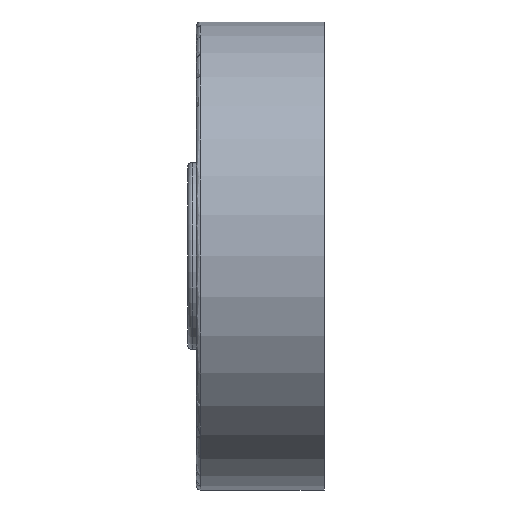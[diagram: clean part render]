
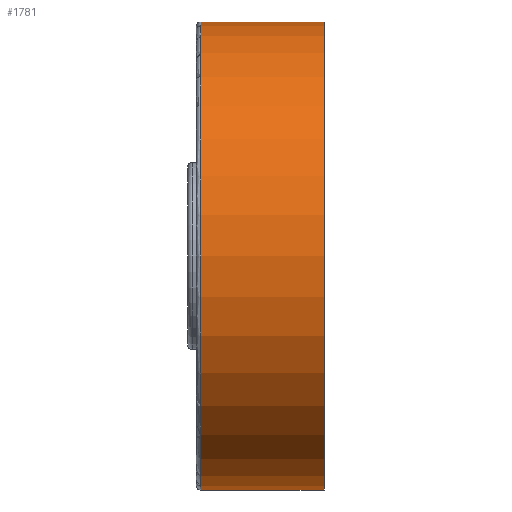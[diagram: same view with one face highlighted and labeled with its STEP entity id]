
A CAD part, left-side view. The second image highlights one B-rep face of the part: STEP entity #1781.
In plain terms, the highlighted cylindrical face has radius 27.5 mm (diameter 55 mm), a partial arc.
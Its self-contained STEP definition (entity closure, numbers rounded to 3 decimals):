
#85 = EDGE_CURVE ( 'NONE', #2161, #1597, #2662, .T. ) ;
#90 = ORIENTED_EDGE ( 'NONE', *, *, #85, .F. ) ;
#102 = ORIENTED_EDGE ( 'NONE', *, *, #1764, .F. ) ;
#114 = AXIS2_PLACEMENT_3D ( 'NONE', #256, #1299, #1105 ) ;
#136 = VECTOR ( 'NONE', #2576, 1000. ) ;
#146 = DIRECTION ( 'NONE',  ( 0., 0., 1. ) ) ;
#209 = CARTESIAN_POINT ( 'NONE',  ( 0., 0., 0. ) ) ;
#233 = CARTESIAN_POINT ( 'NONE',  ( 0., 14.5, 27.5 ) ) ;
#247 = AXIS2_PLACEMENT_3D ( 'NONE', #2287, #1871, #146 ) ;
#256 = CARTESIAN_POINT ( 'NONE',  ( 0., -52.267, 0. ) ) ;
#377 = LINE ( 'NONE', #2027, #1425 ) ;
#394 = VERTEX_POINT ( 'NONE', #2508 ) ;
#537 = EDGE_LOOP ( 'NONE', ( #102, #2290, #1282, #90 ) ) ;
#688 = DIRECTION ( 'NONE',  ( 0., 0., -1. ) ) ;
#721 = LINE ( 'NONE', #1454, #136 ) ;
#900 = EDGE_CURVE ( 'NONE', #394, #1597, #377, .T. ) ;
#922 = DIRECTION ( 'NONE',  ( 0., -1., 0. ) ) ;
#1105 = DIRECTION ( 'NONE',  ( 0., 0., -1. ) ) ;
#1282 = ORIENTED_EDGE ( 'NONE', *, *, #900, .T. ) ;
#1299 = DIRECTION ( 'NONE',  ( 0., -1., 0. ) ) ;
#1425 = VECTOR ( 'NONE', #1829, 1000. ) ;
#1454 = CARTESIAN_POINT ( 'NONE',  ( 0., -52.267, 27.5 ) ) ;
#1577 = EDGE_CURVE ( 'NONE', #2714, #394, #2694, .T. ) ;
#1597 = VERTEX_POINT ( 'NONE', #2682 ) ;
#1764 = EDGE_CURVE ( 'NONE', #2714, #2161, #721, .T. ) ;
#1781 = ADVANCED_FACE ( 'NONE', ( #2339 ), #2670, .T. ) ;
#1816 = AXIS2_PLACEMENT_3D ( 'NONE', #209, #922, #688 ) ;
#1829 = DIRECTION ( 'NONE',  ( 0., -1., 0. ) ) ;
#1871 = DIRECTION ( 'NONE',  ( 0., -1., 0. ) ) ;
#2026 = CARTESIAN_POINT ( 'NONE',  ( 0., 0., 27.5 ) ) ;
#2027 = CARTESIAN_POINT ( 'NONE',  ( 0., -52.267, -27.5 ) ) ;
#2161 = VERTEX_POINT ( 'NONE', #2026 ) ;
#2287 = CARTESIAN_POINT ( 'NONE',  ( 0., 14.5, 0. ) ) ;
#2290 = ORIENTED_EDGE ( 'NONE', *, *, #1577, .T. ) ;
#2339 = FACE_OUTER_BOUND ( 'NONE', #537, .T. ) ;
#2508 = CARTESIAN_POINT ( 'NONE',  ( 0., 14.5, -27.5 ) ) ;
#2576 = DIRECTION ( 'NONE',  ( 0., -1., 0. ) ) ;
#2662 = CIRCLE ( 'NONE', #1816, 27.5 ) ;
#2670 = CYLINDRICAL_SURFACE ( 'NONE', #114, 27.5 ) ;
#2682 = CARTESIAN_POINT ( 'NONE',  ( 0., 0., -27.5 ) ) ;
#2694 = CIRCLE ( 'NONE', #247, 27.5 ) ;
#2714 = VERTEX_POINT ( 'NONE', #233 ) ;
